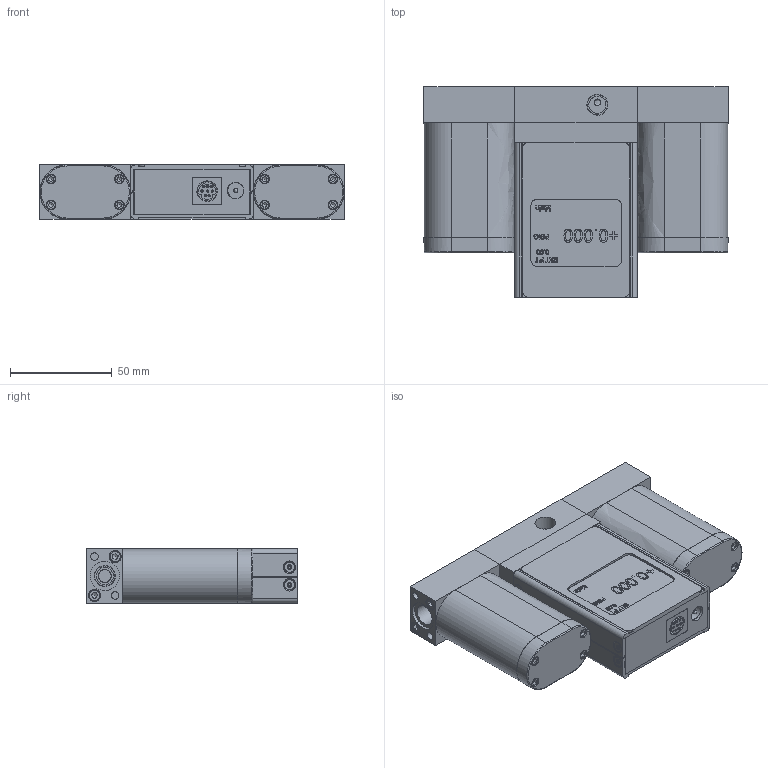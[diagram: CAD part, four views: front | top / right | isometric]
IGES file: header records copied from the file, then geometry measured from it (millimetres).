
Global section: file name: EPR3000; native system: Autodesk Inventor 2018; preprocessor: unknown; author: CADuser; date: 20180427.110745; units: inch
Bounding box: 149.22 x 103.3 x 26.67 mm (x, y, z)
Volume: 142239.5 mm3; surface area: 108124.2 mm2
Topology: 8 solids, 8 shells, 2588 faces, 6840 edges, 4467 vertices
Faces by surface type: bspline 2588
